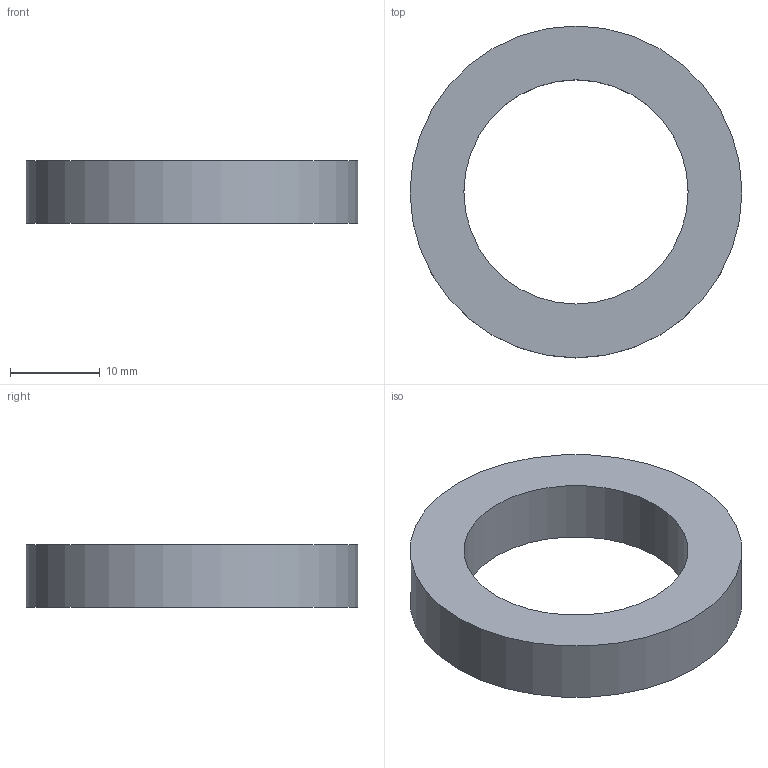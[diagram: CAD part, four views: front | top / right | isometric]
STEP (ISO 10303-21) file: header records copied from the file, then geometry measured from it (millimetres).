
FILE_DESCRIPTION(('Open CASCADE Model'),'2;1');
FILE_NAME('Open CASCADE Shape Model','2026-11-23T18:10:06',('Author'),( 'Open CASCADE'),'Open CASCADE STEP processor 8.0','build123d', 'Unknown');
FILE_SCHEMA(('AUTOMOTIVE_DESIGN { 1 0 10303 214 1 1 1 1 }'));
Length unit declared in the file: millimetre
Products named in the file (1): SOLID
Bounding box: 37 x 37 x 7 mm (x, y, z)
Volume: 4090.4 mm3; surface area: 2532.1 mm2
Topology: 1 solids, 1 shells, 4 faces, 6 edges, 4 vertices
Faces by surface type: cylinder 2, plane 2
Full cylindrical faces by diameter (mm): 25 x1, 37 x1
Entity records: 186 total; most frequent: DIRECTION 32, CARTESIAN_POINT 27, ORIENTED_EDGE 12, PCURVE 12, DEFINITIONAL_REPRESENTATION 12, LINE 10, VECTOR 10, AXIS2_PLACEMENT_3D 9
